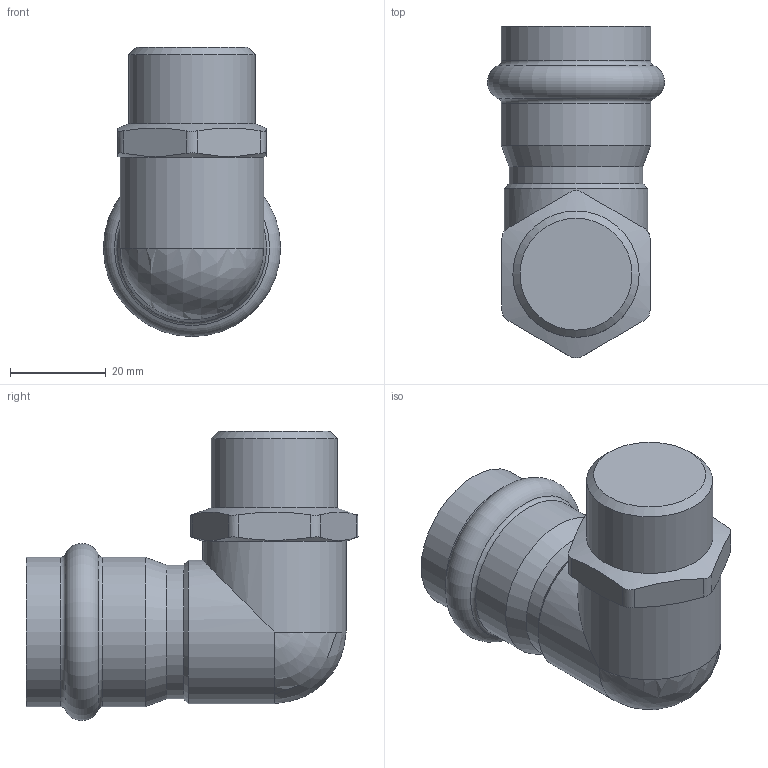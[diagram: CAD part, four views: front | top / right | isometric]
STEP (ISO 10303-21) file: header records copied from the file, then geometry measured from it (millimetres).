
FILE_DESCRIPTION(('STEP AP203'), '1');
FILE_NAME('VTi.953.I.002805', '', ('UNSPECIFIED'), ('UNSPECIFIED'), 'C3D Converter', 'C3D Toolkit', '');
FILE_SCHEMA(('CONFIG_CONTROL_DESIGN'));
Length unit declared in the file: millimetre
Bounding box: 37.1 x 69.51 x 60.55 mm (x, y, z)
Volume: 66314.9 mm3; surface area: 10559.7 mm2
Topology: 1 solids, 1 shells, 29 faces, 71 edges, 42 vertices
Faces by surface type: cylinder 12, plane 8, cone 5, torus 3, sphere 1
Full cylindrical faces by diameter (mm): 26.441 x1, 28 x1, 30 x2, 31.26 x2
Entity records: 1777 total; most frequent: CARTESIAN_POINT 1166, ORIENTED_EDGE 110, DIRECTION 104, EDGE_CURVE 55, AXIS2_PLACEMENT_3D 46, EDGE_LOOP 43, VERTEX_POINT 42, ADVANCED_FACE 29
